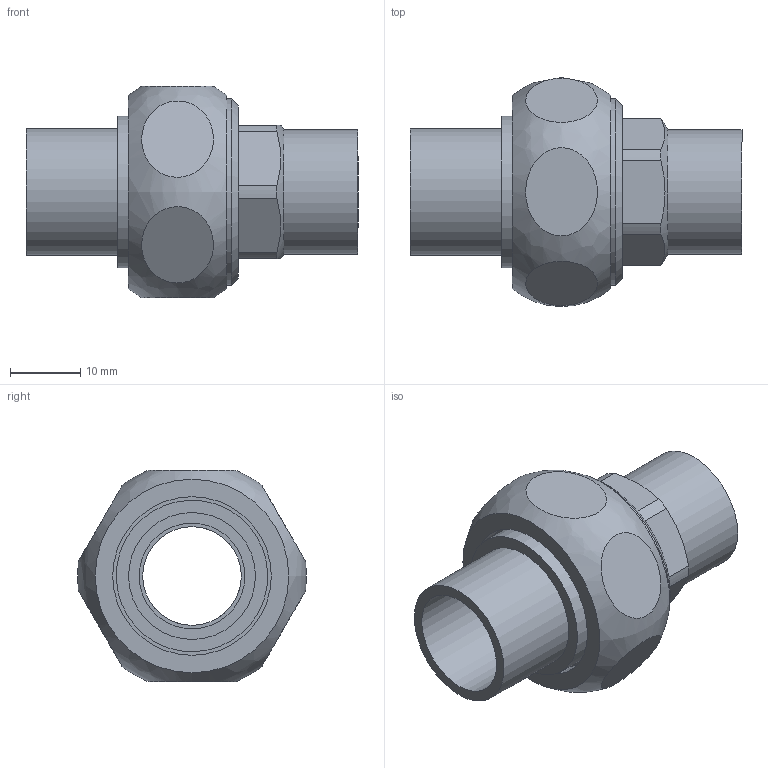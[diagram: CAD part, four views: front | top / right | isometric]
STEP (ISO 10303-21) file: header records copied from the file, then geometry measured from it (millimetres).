
FILE_DESCRIPTION((''),'2;1');
FILE_NAME('\\Lg50001\groups\SANHA Legnica\Engineering\Public\RYSUNKI\SANHA POLSKA\4340\step\14340_15(1).stp','2010-06-17T11:56:15',('pajchrowski'),(''),'Autodesk Inventor 2009','Autodesk Inventor 2009','');
FILE_SCHEMA(('AUTOMOTIVE_DESIGN { 1 0 10303 214 1 1 1 1 }'));
Length unit declared in the file: millimetre
Products named in the file (4): 14340_15(1); 14381_15-34(1); 14374_34(2); 14380_15-34(0)
Assembly tree (3 placements, depth 2):
  14340_15(1)
    14381_15-34(1)
    14374_34(2)
    14380_15-34(0)
Bounding box: 47.1 x 32.5 x 30 mm (x, y, z)
Volume: 11635.1 mm3; surface area: 9397.7 mm2
Topology: 3 solids, 3 shells, 48 faces, 90 edges, 60 vertices
Faces by surface type: plane 24, cylinder 18, cone 4, torus 1, bspline 1
Full cylindrical faces by diameter (mm): 14 x2, 15 x2, 17.6 x1, 18 x1, 21 x1, 21.5 x1, 22.5 x1, 23.5 x1, 24.117 x1, 26.441 x1
Entity records: 2205 total; most frequent: CARTESIAN_POINT 1177, DIRECTION 208, ORIENTED_EDGE 142, AXIS2_PLACEMENT_3D 95, EDGE_LOOP 84, EDGE_CURVE 71, VERTEX_POINT 59, FACE_OUTER_BOUND 48
